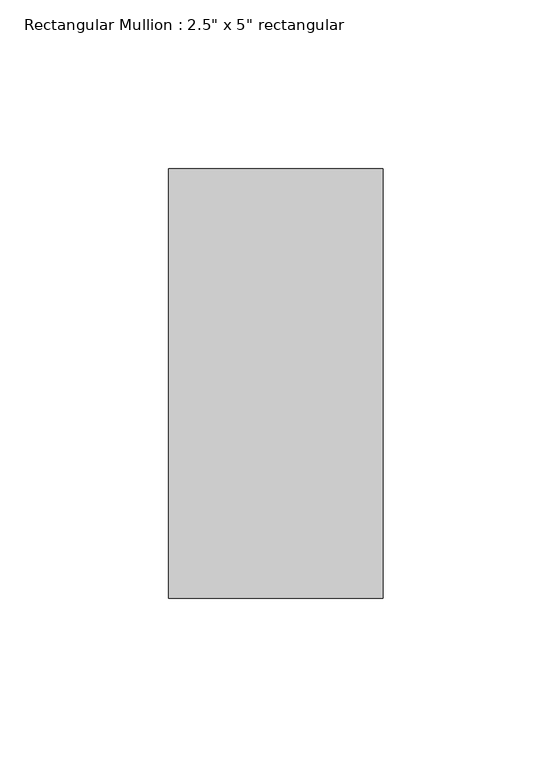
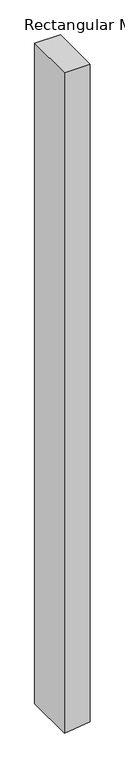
"""IFC4 building model written with IfcOpenShell, lengths in millimetres: member geometry."""

from ifc_helpers import new_model, si_unit, frame, origin, place, context, project, spatial, polyline, outline, extrude, source, transform, mapped, element, save


def member_1916242d(model_context):
    return source(origin(), model_context, "Body", "SweptSolid", [
        extrude(outline(polyline([(0.0, 31.75), (0.0, -31.75), (-1726.3491188, -31.75), (-1723.606552, -6.9912306), (-1719.3151266, 31.75), (0.0, 31.75)])), frame((0.0, -63.5, 0.0), z_axis=(0.0, 1.0, 0.0), x_axis=(0.0, 0.0, 1.0)), (0.0, 0.0, 1.0), 127.0),
    ])


if __name__ == "__main__":
    model = new_model("IFC4")
    model_context = context("Model", 3, world=origin())
    ifc_project = project(units=[si_unit("LENGTHUNIT", "METRE", prefix="MILLI")], contexts=[model_context])
    site = spatial("IfcSite", under=ifc_project)
    building = spatial("IfcBuilding", under=site)
    placement = place(None, origin())
    member_shape = member_1916242d(model_context)
    element("IfcMember", 1, ObjectType="Rectangular Mullion : 2.5\" x 5\" rectangular", at=placement, inside=building, context=model_context, shape_type="MappedRepresentation", body=[
        mapped(member_shape, transform((0.0, 0.0, 0.0), x_axis=(1.0, 0.0, 0.0), y_axis=(0.0, 1.0, 0.0), z_axis=(0.0, 0.0, 1.0))),
    ])
    save(model, "model.ifc")
